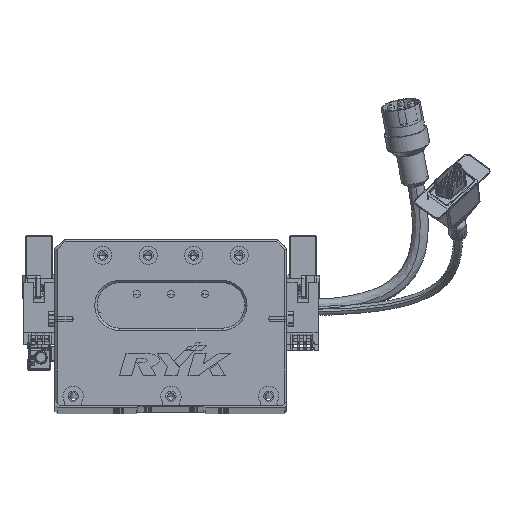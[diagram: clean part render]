
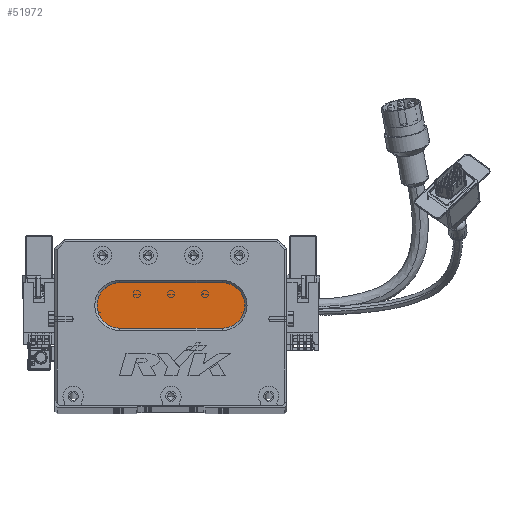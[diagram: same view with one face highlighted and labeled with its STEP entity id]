
A CAD part, top view. The second image highlights one B-rep face of the part: STEP entity #51972.
In plain terms, the highlighted planar face has unit normal (0, 0, 1) as drawn and (0, 0, -1) by its records, which use the part's own axes.
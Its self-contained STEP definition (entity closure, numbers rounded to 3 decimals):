
#129 = ORIENTED_EDGE ( 'NONE', *, *, #23194, .T. ) ;
#2532 = CIRCLE ( 'NONE', #32195, 10. ) ;
#5830 = PLANE ( 'NONE',  #50327 ) ;
#5996 = ORIENTED_EDGE ( 'NONE', *, *, #6974, .T. ) ;
#6974 = EDGE_CURVE ( 'NONE', #53166, #18993, #47160, .T. ) ;
#9695 = DIRECTION ( 'NONE',  ( -1., 0., 0. ) ) ;
#12361 = DIRECTION ( 'NONE',  ( 0., 0., -1. ) ) ;
#13280 = EDGE_CURVE ( 'NONE', #33865, #26230, #23505, .T. ) ;
#16255 = DIRECTION ( 'NONE',  ( -1., 0., 0. ) ) ;
#17998 = VECTOR ( 'NONE', #50409, 1000. ) ;
#18532 = LINE ( 'NONE', #38950, #23117 ) ;
#18993 = VERTEX_POINT ( 'NONE', #56252 ) ;
#19100 = DIRECTION ( 'NONE',  ( 0., 0., -1. ) ) ;
#20900 = DIRECTION ( 'NONE',  ( 1., 0., 0. ) ) ;
#23117 = VECTOR ( 'NONE', #20900, 1000. ) ;
#23194 = EDGE_CURVE ( 'NONE', #51787, #33865, #2532, .T. ) ;
#23505 = LINE ( 'NONE', #33533, #17998 ) ;
#24884 = AXIS2_PLACEMENT_3D ( 'NONE', #44026, #38428, #9695 ) ;
#26230 = VERTEX_POINT ( 'NONE', #52039 ) ;
#29155 = EDGE_CURVE ( 'NONE', #26230, #53166, #43922, .T. ) ;
#30198 = ORIENTED_EDGE ( 'NONE', *, *, #13280, .T. ) ;
#31059 = DIRECTION ( 'NONE',  ( -1., 0., 0. ) ) ;
#32195 = AXIS2_PLACEMENT_3D ( 'NONE', #65714, #19100, #31059 ) ;
#32500 = DIRECTION ( 'NONE',  ( 0., 0., -1. ) ) ;
#33533 = CARTESIAN_POINT ( 'NONE',  ( 73.5, 34., 13. ) ) ;
#33865 = VERTEX_POINT ( 'NONE', #74647 ) ;
#34874 = CARTESIAN_POINT ( 'NONE',  ( 18.5, 44., 13. ) ) ;
#37615 = CARTESIAN_POINT ( 'NONE',  ( 28.5, 44., 13. ) ) ;
#38428 = DIRECTION ( 'NONE',  ( 0., 0., -1. ) ) ;
#38950 = CARTESIAN_POINT ( 'NONE',  ( 73.5, 54., 13. ) ) ;
#39872 = CARTESIAN_POINT ( 'NONE',  ( 73.5, 54., 13. ) ) ;
#43922 = CIRCLE ( 'NONE', #45316, 10. ) ;
#44026 = CARTESIAN_POINT ( 'NONE',  ( 28.5, 44., 13. ) ) ;
#44143 = ORIENTED_EDGE ( 'NONE', *, *, #59981, .T. ) ;
#45316 = AXIS2_PLACEMENT_3D ( 'NONE', #37615, #32500, #16255 ) ;
#47160 = CIRCLE ( 'NONE', #24884, 10. ) ;
#47250 = CARTESIAN_POINT ( 'NONE',  ( 73.5, 44., 13. ) ) ;
#49813 = ORIENTED_EDGE ( 'NONE', *, *, #29155, .T. ) ;
#50327 = AXIS2_PLACEMENT_3D ( 'NONE', #47250, #12361, #58961 ) ;
#50409 = DIRECTION ( 'NONE',  ( -1., 0., 0. ) ) ;
#51787 = VERTEX_POINT ( 'NONE', #39872 ) ;
#51972 = ADVANCED_FACE ( 'NONE', ( #67443 ), #5830, .T. ) ;
#52004 = EDGE_LOOP ( 'NONE', ( #129, #30198, #49813, #5996, #44143 ) ) ;
#52039 = CARTESIAN_POINT ( 'NONE',  ( 28.5, 34., 13. ) ) ;
#53166 = VERTEX_POINT ( 'NONE', #34874 ) ;
#56252 = CARTESIAN_POINT ( 'NONE',  ( 28.5, 54., 13. ) ) ;
#58961 = DIRECTION ( 'NONE',  ( -1., 0., 0. ) ) ;
#59981 = EDGE_CURVE ( 'NONE', #18993, #51787, #18532, .T. ) ;
#65714 = CARTESIAN_POINT ( 'NONE',  ( 73.5, 44., 13. ) ) ;
#67443 = FACE_OUTER_BOUND ( 'NONE', #52004, .T. ) ;
#74647 = CARTESIAN_POINT ( 'NONE',  ( 73.5, 34., 13. ) ) ;
